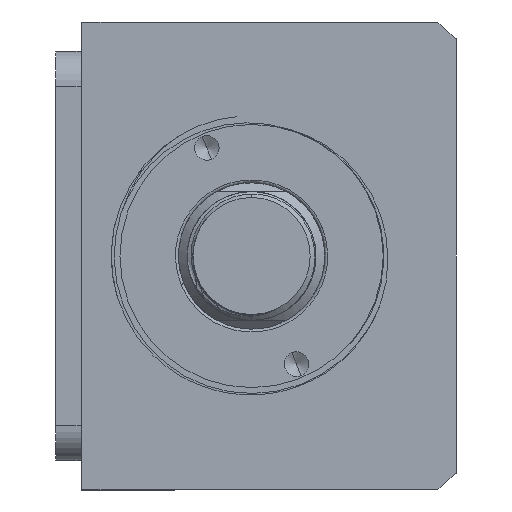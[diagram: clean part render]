
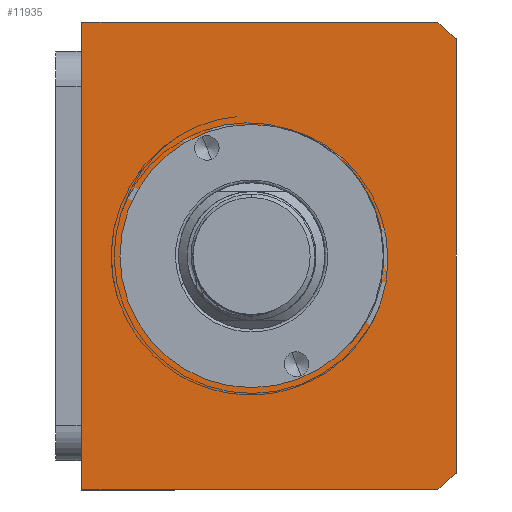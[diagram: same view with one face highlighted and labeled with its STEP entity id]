
A CAD part, front view. The second image highlights one B-rep face of the part: STEP entity #11935.
In plain terms, the highlighted planar face has unit normal (0, -1, 0) as drawn and (0, 0, 1) by its records, which use the part's own axes.
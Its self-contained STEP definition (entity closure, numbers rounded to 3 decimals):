
#282 = DIRECTION ( 'NONE',  ( 0., 0., 1. ) ) ;
#749 = LINE ( 'NONE', #9413, #1099 ) ;
#833 = VECTOR ( 'NONE', #9836, 1000. ) ;
#1099 = VECTOR ( 'NONE', #10461, 1000. ) ;
#1105 = CIRCLE ( 'NONE', #2029, 51. ) ;
#1434 = VECTOR ( 'NONE', #5150, 1000. ) ;
#1554 = CARTESIAN_POINT ( 'NONE',  ( 40., -11.507, 120. ) ) ;
#1696 = EDGE_CURVE ( 'NONE', #7970, #4121, #10919, .T. ) ;
#2029 = AXIS2_PLACEMENT_3D ( 'NONE', #11479, #5132, #12551 ) ;
#2215 = CARTESIAN_POINT ( 'NONE',  ( 37.094, -75.507, 120. ) ) ;
#2665 = EDGE_CURVE ( 'NONE', #8797, #7970, #9301, .T. ) ;
#3018 = CARTESIAN_POINT ( 'NONE',  ( 40., -11.507, 120. ) ) ;
#3082 = CIRCLE ( 'NONE', #11725, 22.5 ) ;
#3108 = PLANE ( 'NONE',  #5946 ) ;
#3299 = CARTESIAN_POINT ( 'NONE',  ( -40., -72.145, 120. ) ) ;
#3408 = EDGE_CURVE ( 'NONE', #8302, #5888, #10924, .T. ) ;
#3727 = CARTESIAN_POINT ( 'NONE',  ( -22.5, -40.507, 120. ) ) ;
#3737 = ORIENTED_EDGE ( 'NONE', *, *, #9143, .T. ) ;
#3867 = CARTESIAN_POINT ( 'NONE',  ( -40., -11.507, 120. ) ) ;
#4121 = VERTEX_POINT ( 'NONE', #13225 ) ;
#4179 = DIRECTION ( 'NONE',  ( 0., 0., 1. ) ) ;
#4875 = ORIENTED_EDGE ( 'NONE', *, *, #10814, .F. ) ;
#4928 = DIRECTION ( 'NONE',  ( 0., -1., 0. ) ) ;
#5132 = DIRECTION ( 'NONE',  ( 0., 0., 1. ) ) ;
#5142 = ORIENTED_EDGE ( 'NONE', *, *, #3408, .F. ) ;
#5150 = DIRECTION ( 'NONE',  ( 0., 1., 0. ) ) ;
#5422 = EDGE_CURVE ( 'NONE', #13294, #9253, #749, .T. ) ;
#5560 = LINE ( 'NONE', #3867, #10855 ) ;
#5636 = CARTESIAN_POINT ( 'NONE',  ( 0., -40.507, 120. ) ) ;
#5851 = EDGE_CURVE ( 'NONE', #9253, #12060, #5560, .T. ) ;
#5888 = VERTEX_POINT ( 'NONE', #6003 ) ;
#5946 = AXIS2_PLACEMENT_3D ( 'NONE', #8042, #4179, #11579 ) ;
#6003 = CARTESIAN_POINT ( 'NONE',  ( 22.5, -40.507, 120. ) ) ;
#6225 = FACE_OUTER_BOUND ( 'NONE', #9634, .T. ) ;
#6295 = DIRECTION ( 'NONE',  ( 0., 0., 1. ) ) ;
#6413 = CARTESIAN_POINT ( 'NONE',  ( -40., -11.507, 120. ) ) ;
#6477 = ORIENTED_EDGE ( 'NONE', *, *, #1696, .T. ) ;
#6625 = EDGE_LOOP ( 'NONE', ( #4875, #5142 ) ) ;
#6650 = CARTESIAN_POINT ( 'NONE',  ( 0., -40.507, 120. ) ) ;
#6716 = DIRECTION ( 'NONE',  ( 1., 0., 0. ) ) ;
#7717 = DIRECTION ( 'NONE',  ( 1., 0., 0. ) ) ;
#7970 = VERTEX_POINT ( 'NONE', #2215 ) ;
#8042 = CARTESIAN_POINT ( 'NONE',  ( 0., 0., 120. ) ) ;
#8302 = VERTEX_POINT ( 'NONE', #3727 ) ;
#8649 = CARTESIAN_POINT ( 'NONE',  ( -37.094, -75.507, 120. ) ) ;
#8797 = VERTEX_POINT ( 'NONE', #8649 ) ;
#9143 = EDGE_CURVE ( 'NONE', #4121, #13294, #9897, .T. ) ;
#9253 = VERTEX_POINT ( 'NONE', #6413 ) ;
#9301 = LINE ( 'NONE', #10666, #833 ) ;
#9375 = FACE_BOUND ( 'NONE', #6625, .T. ) ;
#9413 = CARTESIAN_POINT ( 'NONE',  ( -40., -11.507, 120. ) ) ;
#9634 = EDGE_LOOP ( 'NONE', ( #12425, #9725, #12936, #6477, #3737, #9651 ) ) ;
#9651 = ORIENTED_EDGE ( 'NONE', *, *, #5422, .T. ) ;
#9725 = ORIENTED_EDGE ( 'NONE', *, *, #10049, .T. ) ;
#9836 = DIRECTION ( 'NONE',  ( 1., 0., 0. ) ) ;
#9897 = LINE ( 'NONE', #3018, #1434 ) ;
#10049 = EDGE_CURVE ( 'NONE', #12060, #8797, #1105, .T. ) ;
#10461 = DIRECTION ( 'NONE',  ( -1., 0., 0. ) ) ;
#10666 = CARTESIAN_POINT ( 'NONE',  ( -40., -75.507, 120. ) ) ;
#10814 = EDGE_CURVE ( 'NONE', #5888, #8302, #3082, .T. ) ;
#10855 = VECTOR ( 'NONE', #4928, 1000. ) ;
#10919 = CIRCLE ( 'NONE', #12796, 51. ) ;
#10924 = CIRCLE ( 'NONE', #13032, 22.5 ) ;
#11479 = CARTESIAN_POINT ( 'NONE',  ( 0., -40.507, 120. ) ) ;
#11579 = DIRECTION ( 'NONE',  ( 1., 0., 0. ) ) ;
#11725 = AXIS2_PLACEMENT_3D ( 'NONE', #6650, #282, #7717 ) ;
#11935 = ADVANCED_FACE ( 'NONE', ( #9375, #6225 ), #3108, .T. ) ;
#12060 = VERTEX_POINT ( 'NONE', #3299 ) ;
#12425 = ORIENTED_EDGE ( 'NONE', *, *, #5851, .T. ) ;
#12551 = DIRECTION ( 'NONE',  ( 1., 0., 0. ) ) ;
#12630 = CARTESIAN_POINT ( 'NONE',  ( 0., -40.507, 120. ) ) ;
#12796 = AXIS2_PLACEMENT_3D ( 'NONE', #5636, #13045, #6716 ) ;
#12936 = ORIENTED_EDGE ( 'NONE', *, *, #2665, .T. ) ;
#13032 = AXIS2_PLACEMENT_3D ( 'NONE', #12630, #6295, #13706 ) ;
#13045 = DIRECTION ( 'NONE',  ( 0., 0., 1. ) ) ;
#13225 = CARTESIAN_POINT ( 'NONE',  ( 40., -72.145, 120. ) ) ;
#13294 = VERTEX_POINT ( 'NONE', #1554 ) ;
#13706 = DIRECTION ( 'NONE',  ( 1., 0., 0. ) ) ;
